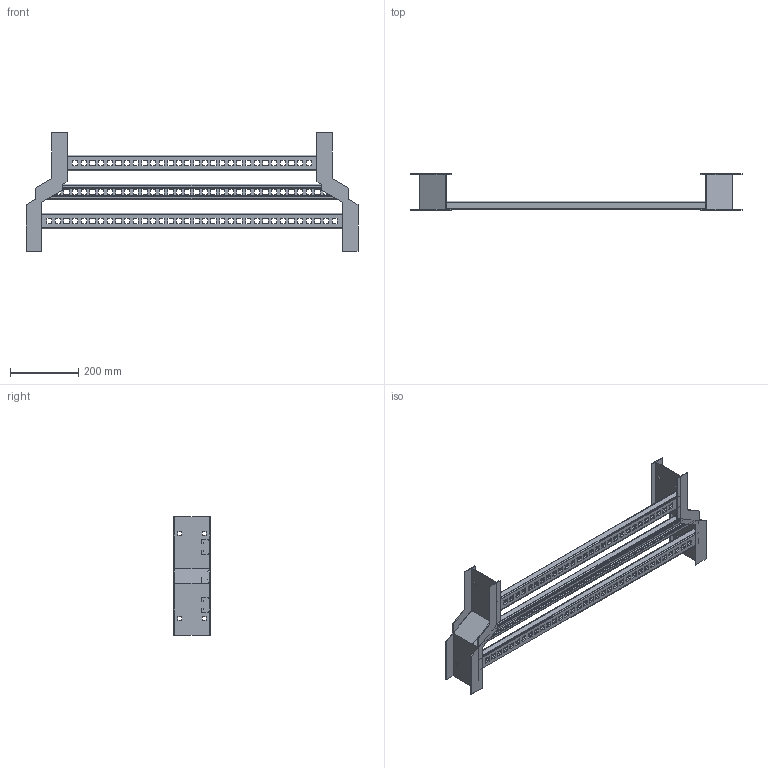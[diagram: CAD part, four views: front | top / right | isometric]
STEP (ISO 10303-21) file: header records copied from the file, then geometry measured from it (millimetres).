
FILE_DESCRIPTION((''),'2;1');
FILE_NAME('AHF43630VHSR_ASM','2010-01-27T',('erouzier'),(''),'PRO/ENGINEER BY PARAMETRIC TECHNOLOGY CORPORATION, 2008510','PRO/ENGINEER BY PARAMETRIC TECHNOLOGY CORPORATION, 2008510','');
FILE_SCHEMA(('CONFIG_CONTROL_DESIGN'));
Length unit declared in the file: inch
Products named in the file (5): CDS013867-4-30; CDS002159L36-P; CDS002159L42-P_AF1; CDS002159L30-P_AF1; AHF43630VHSR_ASM
Assembly tree (5 placements, depth 2):
  AHF43630VHSR_ASM
    CDS013867-4-30  x2
    CDS002159L36-P
    CDS002159L42-P_AF1
    CDS002159L30-P_AF1
Bounding box: 974.6 x 106.43 x 348.79 mm (x, y, z)
Volume: 606303.9 mm3; surface area: 848521.8 mm2
Topology: 5 solids, 5 shells, 966 faces, 2844 edges, 1888 vertices
Faces by surface type: plane 553, cylinder 413
Entity records: 31251 total; most frequent: CARTESIAN_POINT 5554, ORIENTED_EDGE 5400, DIRECTION 5334, EDGE_CURVE 2700, VECTOR 1866, LINE 1866, VERTEX_POINT 1796, AXIS2_PLACEMENT_3D 1734
